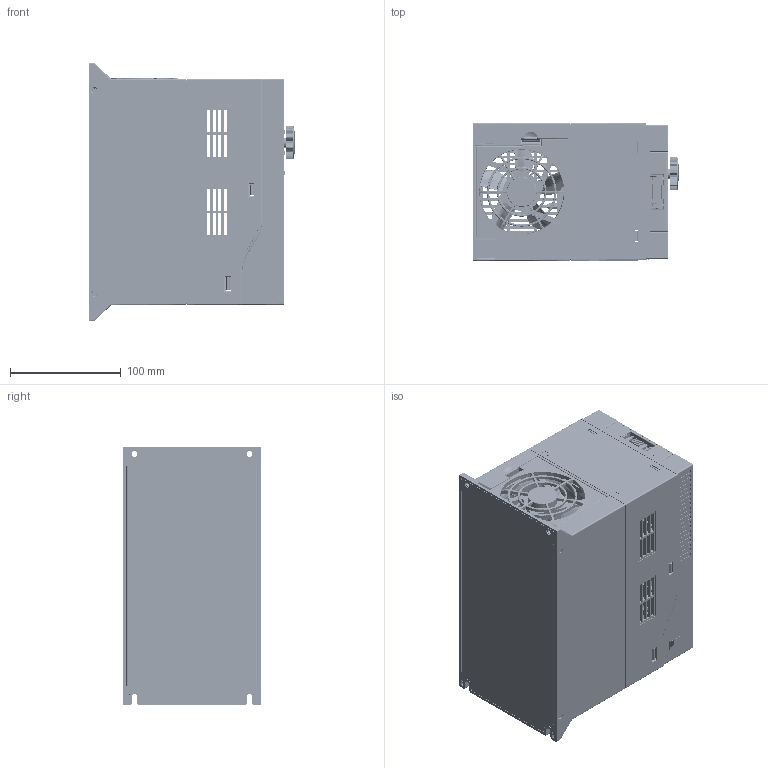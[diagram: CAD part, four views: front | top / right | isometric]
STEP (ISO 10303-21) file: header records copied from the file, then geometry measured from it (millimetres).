
FILE_DESCRIPTION((''),'2;1');
FILE_NAME('E160-7R5G_ASM','2022-12-08T',('500081'),(''),'CREO PARAMETRIC BY PTC INC, 2014350','CREO PARAMETRIC BY PTC INC, 2014350','');
FILE_SCHEMA(('CONFIG_CONTROL_DESIGN'));
Products named in the file (36): E160-7R5GT4C1-MP01; E160-7R5GT4C1-MP02; E160-7R5GT4C1-MP03; E160-7R5GT4C1-MP04; E160-7R5GT4C1-MP05; E160-7R5GT4C1-MS01; E160-7R5GT4C1-MI01; E160-7R5GT4C1-MA01_ASM; E160-1R5KZ-PCB; KZB-DZZ; WK_JP-20X9X20-2X5P; E160-KZZJ-2R2T4_ASM; BRTB825-02-09; E160-PCB-ZJ-7R5T4_ASM; JP_JIANPANKE; JP_BOLIBAN; JP_MIANMO; JP_MIANMO_ASM; JP_Z_ASM; JP_PCB; 2P-SHUMAGUAN; 3P-SHUMAGUAN; 5PP_ASM; JP_BIANMAQI; JP_QINGCHUKAIGUAN; JP_GONGTOU; JP_LED; JP_PCB_ASM; JP_XUANNIU; JP_JIANPANGAI; JP_JIANPANGAI_ASM; BH-E200-JP-ZJ_ASM; ZL-FJ-8025; CHENGTOU-LS-M3X6-5; BSP-97-7X13MM; E160-7R5G_ASM
Assembly tree (52 placements, depth 5):
  E160-7R5G_ASM
    E160-7R5GT4C1-MA01_ASM
      E160-7R5GT4C1-MP01
      E160-7R5GT4C1-MP02
      E160-7R5GT4C1-MP03
      E160-7R5GT4C1-MP04
      E160-7R5GT4C1-MP05
      E160-7R5GT4C1-MS01
      E160-7R5GT4C1-MI01
    E160-PCB-ZJ-7R5T4_ASM
      E160-KZZJ-2R2T4_ASM
        E160-1R5KZ-PCB
        KZB-DZZ
        WK_JP-20X9X20-2X5P
      BRTB825-02-09
    BH-E200-JP-ZJ_ASM
      JP_Z_ASM
        JP_JIANPANKE
        JP_BOLIBAN
        JP_MIANMO_ASM
          JP_MIANMO
      JP_PCB_ASM
        JP_PCB
        5PP_ASM
          2P-SHUMAGUAN
          3P-SHUMAGUAN
        JP_BIANMAQI
        JP_QINGCHUKAIGUAN  x9
        JP_GONGTOU
        JP_LED  x7
      JP_XUANNIU
      JP_JIANPANGAI_ASM
        JP_JIANPANGAI
    ZL-FJ-8025
    CHENGTOU-LS-M3X6-5  x4
    BSP-97-7X13MM
Bounding box: 186.8 x 125 x 234 mm (x, y, z)
Volume: 614931.3 mm3; surface area: 650342.5 mm2
Topology: 47 solids, 47 shells, 9998 faces, 26830 edges, 17470 vertices
Faces by surface type: plane 7055, cylinder 1756, cone 431, extrusion 286, torus 266, bspline 127, sphere 73, revolution 4
Entity records: 397826 total; most frequent: CARTESIAN_POINT 69435, ORIENTED_EDGE 50392, DIRECTION 44981, PRESENTATION_STYLE_ASSIGNMENT 26787, STYLED_ITEM 25398, EDGE_CURVE 25196, CURVE_STYLE 25178, VECTOR 19227
